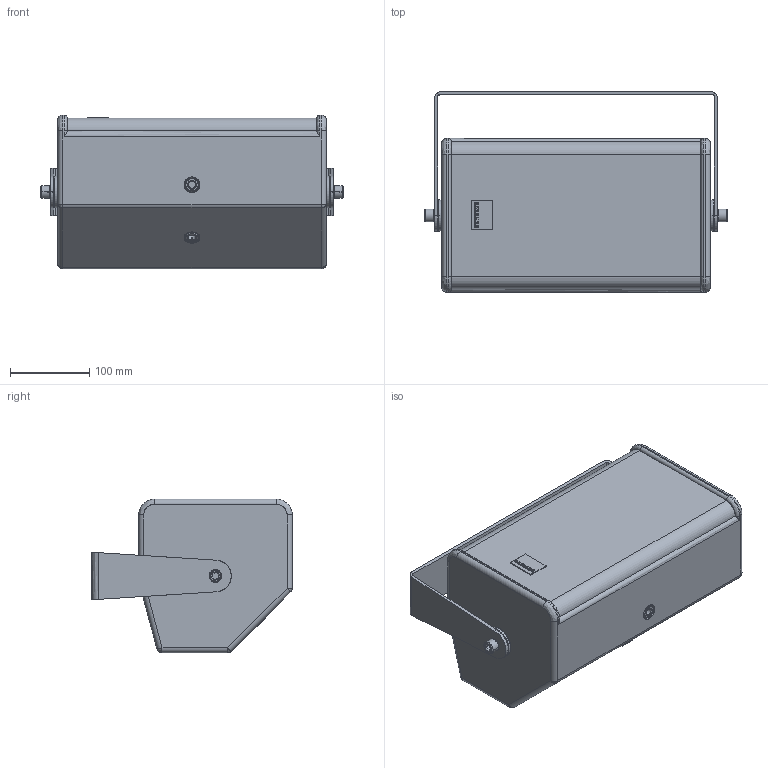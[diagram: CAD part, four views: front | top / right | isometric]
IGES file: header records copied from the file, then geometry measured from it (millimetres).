
Start section: SolidWorks IGES file using analytic representation for surfaces
Global section: file name: C:\Dokumente und Einstellungen\PC_Fabian\Desktop\TS-Serie\Seeburg_TSNano_Bracket_hor.IGS; native system: SolidWorks 2009; preprocessor: SolidWorks 2009; author: PC_Fabian; date: 121017.141947; units: millimetre
Bounding box: 381.6 x 253 x 194 mm (x, y, z)
Surface area: 749414.3 mm2 (no closed solid volume)
Topology: 0 solids, 0 shells, 486 faces, 5704 edges, 5702 vertices
Faces by surface type: revolution 276, bspline 210
